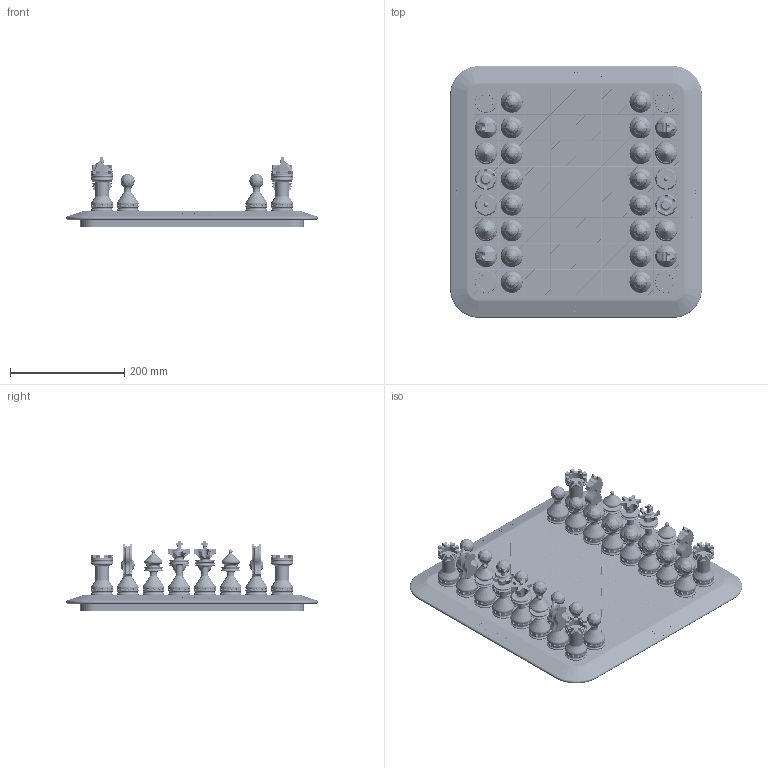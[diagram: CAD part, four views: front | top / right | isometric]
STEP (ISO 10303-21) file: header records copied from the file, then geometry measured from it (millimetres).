
FILE_DESCRIPTION((''),'2;1');
FILE_NAME('C:\Users\User\Desktop\Mastercam-harjoitukset\Chess\Chess.stp','2020-05-08T08:35:19',(''),(''),'STEP Write','Mastercam 2020 ... CNC Software, Inc.','');
FILE_SCHEMA(('AUTOMOTIVE_DESIGN'));
Length unit declared in the file: millimetre
Products named in the file (1): None
Bounding box: 440 x 440 x 123 mm (x, y, z)
Volume: 4254673.7 mm3; surface area: 714636.4 mm2
Topology: 33 solids, 33 shells, 15204 faces, 39926 edges, 26277 vertices
Faces by surface type: plane 8982, cylinder 2664, bspline 2300, cone 770, torus 448, sphere 40
Full cylindrical faces by diameter (mm): 4 x384, 12 x24, 24 x4, 25 x4, 34 x16, 38 x80
Entity records: 507936 total; most frequent: CARTESIAN_POINT 155363, ORIENTED_EDGE 75964, DIRECTION 55368, EDGE_CURVE 37982, VERTEX_POINT 25743, VECTOR 23604, LINE 23604, EDGE_LOOP 18103
